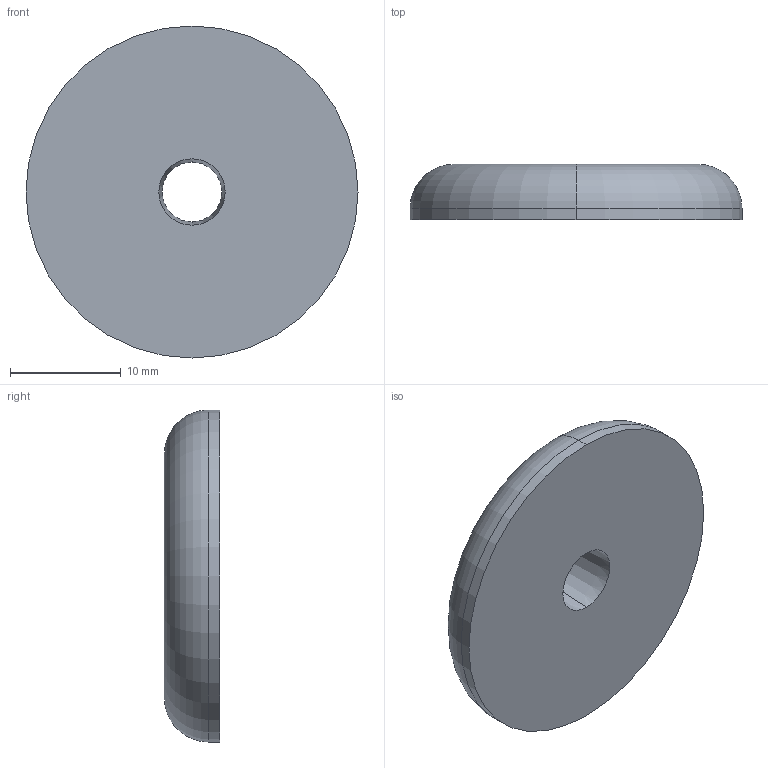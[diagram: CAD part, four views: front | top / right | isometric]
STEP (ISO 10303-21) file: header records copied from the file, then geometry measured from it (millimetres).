
FILE_DESCRIPTION (( 'STEP AP214' ), '1' );
FILE_NAME ('End_Effector_Holder.STEP', '2024-10-17T16:38:23', ( '' ), ( '' ), 'SwSTEP 2.0', 'SolidWorks 2020', '' );
FILE_SCHEMA (( 'AUTOMOTIVE_DESIGN' ));
Length unit declared in the file: millimetre
Products named in the file (1): End_Effector_Holder
Bounding box: 30 x 5 x 30 mm (x, y, z)
Volume: 3102.2 mm3; surface area: 1754.6 mm2
Topology: 1 solids, 1 shells, 8 faces, 16 edges, 10 vertices
Faces by surface type: torus 2, cylinder 2, cone 2, plane 2
Entity records: 254 total; most frequent: DIRECTION 46, CARTESIAN_POINT 35, ORIENTED_EDGE 32, AXIS2_PLACEMENT_3D 21, EDGE_CURVE 16, CIRCLE 12, VERTEX_POINT 10, EDGE_LOOP 10
